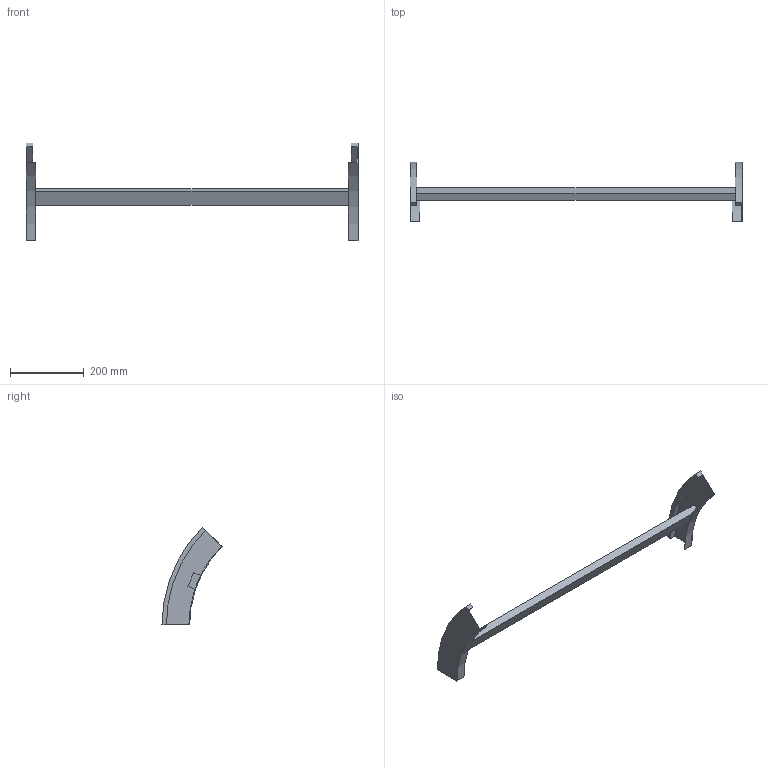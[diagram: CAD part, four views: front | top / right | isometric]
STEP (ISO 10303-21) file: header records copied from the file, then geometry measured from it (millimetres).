
FILE_DESCRIPTION (( 'STEP AP214' ), '1' );
FILE_NAME ('B2_34B3C900.step', '2025-02-21T14:55:49', ( '' ), ( '' ), 'SwSTEP 2.0', 'SolidWorks 2023', '' );
FILE_SCHEMA (( 'AUTOMOTIVE_DESIGN' ));
Length unit declared in the file: millimetre
Products named in the file (3): B2_LONGH.DISCESA_45°_H75_R300; B2_34B3C900; TRAVERSINO_900
Assembly tree (3 placements, depth 2):
  B2_34B3C900
    B2_LONGH.DISCESA_45°_H75_R300  x2
    TRAVERSINO_900
Bounding box: 900 x 162.87 x 265.17 mm (x, y, z)
Volume: 940209.8 mm3; surface area: 235434.6 mm2
Topology: 3 solids, 3 shells, 26 faces, 60 edges, 40 vertices
Faces by surface type: plane 18, cylinder 8
Entity records: 544 total; most frequent: DIRECTION 88, CARTESIAN_POINT 82, ORIENTED_EDGE 72, EDGE_CURVE 36, AXIS2_PLACEMENT_3D 30, VECTOR 28, LINE 28, VERTEX_POINT 24
